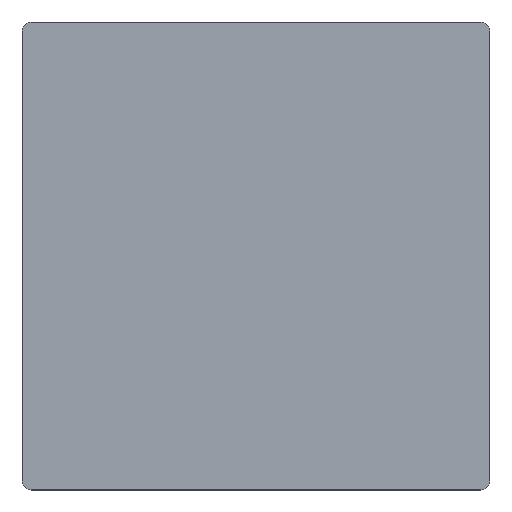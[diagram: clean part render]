
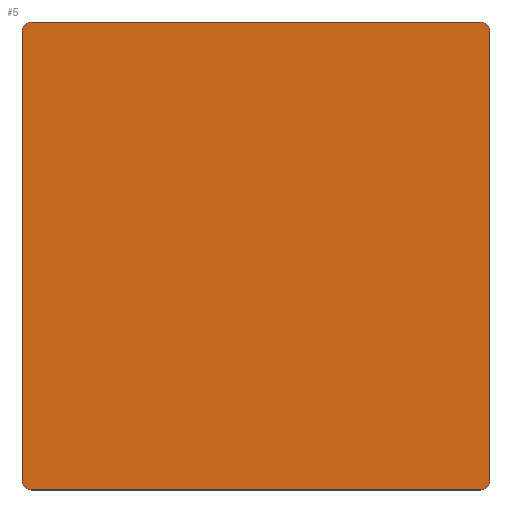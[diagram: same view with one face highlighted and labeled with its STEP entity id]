
A CAD part, top view. The second image highlights one B-rep face of the part: STEP entity #5.
In plain terms, the highlighted planar face has unit normal (0, 0, 1).
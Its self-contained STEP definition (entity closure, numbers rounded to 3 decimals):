
#2 = DIRECTION ( 'NONE',  ( 0., 0., -1. ) ) ;
#3 = VECTOR ( 'NONE', #315, 1000. ) ;
#4 = CARTESIAN_POINT ( 'NONE',  ( 52.25, -50.15, 8. ) ) ;
#5 = ADVANCED_FACE ( 'NONE', ( #201 ), #177, .F. ) ;
#10 = LINE ( 'NONE', #35, #17 ) ;
#17 = VECTOR ( 'NONE', #136, 1000. ) ;
#22 = VERTEX_POINT ( 'NONE', #257 ) ;
#33 = CARTESIAN_POINT ( 'NONE',  ( 52.25, -52.25, 8. ) ) ;
#35 = CARTESIAN_POINT ( 'NONE',  ( 52.25, 52.25, 8. ) ) ;
#39 = AXIS2_PLACEMENT_3D ( 'NONE', #253, #102, #42 ) ;
#42 = DIRECTION ( 'NONE',  ( -1., 0., 0. ) ) ;
#43 = ORIENTED_EDGE ( 'NONE', *, *, #185, .T. ) ;
#44 = CARTESIAN_POINT ( 'NONE',  ( 50.15, 52.25, 8. ) ) ;
#48 = CARTESIAN_POINT ( 'NONE',  ( -50.15, -50.15, 8. ) ) ;
#50 = VERTEX_POINT ( 'NONE', #234 ) ;
#66 = DIRECTION ( 'NONE',  ( 1., 0., 0. ) ) ;
#79 = CARTESIAN_POINT ( 'NONE',  ( 52.25, 50.15, 8. ) ) ;
#81 = DIRECTION ( 'NONE',  ( -1., 0., 0. ) ) ;
#84 = CARTESIAN_POINT ( 'NONE',  ( 50.15, -52.25, 8. ) ) ;
#89 = EDGE_CURVE ( 'NONE', #172, #22, #10, .T. ) ;
#94 = AXIS2_PLACEMENT_3D ( 'NONE', #311, #2, #104 ) ;
#98 = CARTESIAN_POINT ( 'NONE',  ( 50.15, -50.15, 8. ) ) ;
#99 = ORIENTED_EDGE ( 'NONE', *, *, #110, .T. ) ;
#102 = DIRECTION ( 'NONE',  ( 0., 0., 1. ) ) ;
#104 = DIRECTION ( 'NONE',  ( -1., 0., 0. ) ) ;
#110 = EDGE_CURVE ( 'NONE', #140, #50, #186, .T. ) ;
#111 = CIRCLE ( 'NONE', #294, 2.1 ) ;
#121 = EDGE_CURVE ( 'NONE', #197, #269, #316, .T. ) ;
#123 = ORIENTED_EDGE ( 'NONE', *, *, #174, .T. ) ;
#126 = ORIENTED_EDGE ( 'NONE', *, *, #206, .T. ) ;
#133 = AXIS2_PLACEMENT_3D ( 'NONE', #98, #173, #324 ) ;
#136 = DIRECTION ( 'NONE',  ( -1., 0., 0. ) ) ;
#140 = VERTEX_POINT ( 'NONE', #313 ) ;
#141 = VECTOR ( 'NONE', #66, 1000. ) ;
#142 = ORIENTED_EDGE ( 'NONE', *, *, #89, .T. ) ;
#156 = DIRECTION ( 'NONE',  ( 0., 0., 1. ) ) ;
#167 = CARTESIAN_POINT ( 'NONE',  ( 52.25, -52.25, 8. ) ) ;
#169 = VERTEX_POINT ( 'NONE', #79 ) ;
#172 = VERTEX_POINT ( 'NONE', #44 ) ;
#173 = DIRECTION ( 'NONE',  ( 0., 0., 1. ) ) ;
#174 = EDGE_CURVE ( 'NONE', #271, #169, #296, .T. ) ;
#176 = DIRECTION ( 'NONE',  ( 0., 0., 1. ) ) ;
#177 = PLANE ( 'NONE',  #94 ) ;
#180 = CIRCLE ( 'NONE', #133, 2.1 ) ;
#185 = EDGE_CURVE ( 'NONE', #269, #271, #180, .T. ) ;
#186 = LINE ( 'NONE', #290, #3 ) ;
#187 = AXIS2_PLACEMENT_3D ( 'NONE', #48, #176, #81 ) ;
#192 = CIRCLE ( 'NONE', #187, 2.1 ) ;
#194 = EDGE_CURVE ( 'NONE', #22, #140, #210, .T. ) ;
#197 = VERTEX_POINT ( 'NONE', #229 ) ;
#201 = FACE_OUTER_BOUND ( 'NONE', #248, .T. ) ;
#206 = EDGE_CURVE ( 'NONE', #50, #197, #192, .T. ) ;
#210 = CIRCLE ( 'NONE', #39, 2.1 ) ;
#229 = CARTESIAN_POINT ( 'NONE',  ( -50.15, -52.25, 8. ) ) ;
#232 = CARTESIAN_POINT ( 'NONE',  ( 50.15, 50.15, 8. ) ) ;
#234 = CARTESIAN_POINT ( 'NONE',  ( -52.25, -50.15, 8. ) ) ;
#243 = EDGE_CURVE ( 'NONE', #169, #172, #111, .T. ) ;
#245 = VECTOR ( 'NONE', #249, 1000. ) ;
#248 = EDGE_LOOP ( 'NONE', ( #99, #126, #323, #43, #123, #327, #142, #254 ) ) ;
#249 = DIRECTION ( 'NONE',  ( 0., 1., 0. ) ) ;
#253 = CARTESIAN_POINT ( 'NONE',  ( -50.15, 50.15, 8. ) ) ;
#254 = ORIENTED_EDGE ( 'NONE', *, *, #194, .T. ) ;
#257 = CARTESIAN_POINT ( 'NONE',  ( -50.15, 52.25, 8. ) ) ;
#269 = VERTEX_POINT ( 'NONE', #84 ) ;
#271 = VERTEX_POINT ( 'NONE', #4 ) ;
#278 = DIRECTION ( 'NONE',  ( -1., 0., 0. ) ) ;
#290 = CARTESIAN_POINT ( 'NONE',  ( -52.25, -52.25, 8. ) ) ;
#294 = AXIS2_PLACEMENT_3D ( 'NONE', #232, #156, #278 ) ;
#296 = LINE ( 'NONE', #167, #245 ) ;
#311 = CARTESIAN_POINT ( 'NONE',  ( 0., 0., 8. ) ) ;
#313 = CARTESIAN_POINT ( 'NONE',  ( -52.25, 50.15, 8. ) ) ;
#315 = DIRECTION ( 'NONE',  ( 0., -1., 0. ) ) ;
#316 = LINE ( 'NONE', #33, #141 ) ;
#323 = ORIENTED_EDGE ( 'NONE', *, *, #121, .T. ) ;
#324 = DIRECTION ( 'NONE',  ( -1., 0., 0. ) ) ;
#327 = ORIENTED_EDGE ( 'NONE', *, *, #243, .T. ) ;
